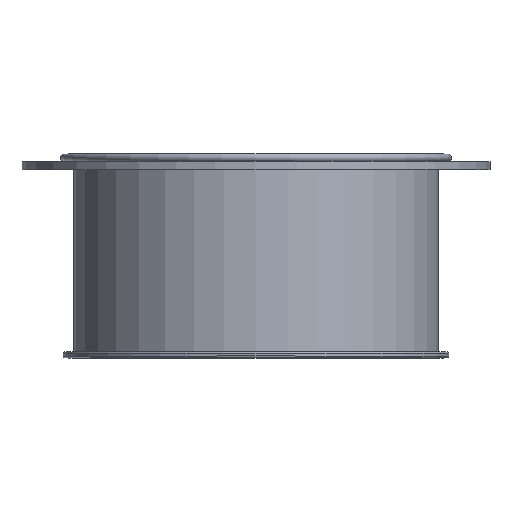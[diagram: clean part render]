
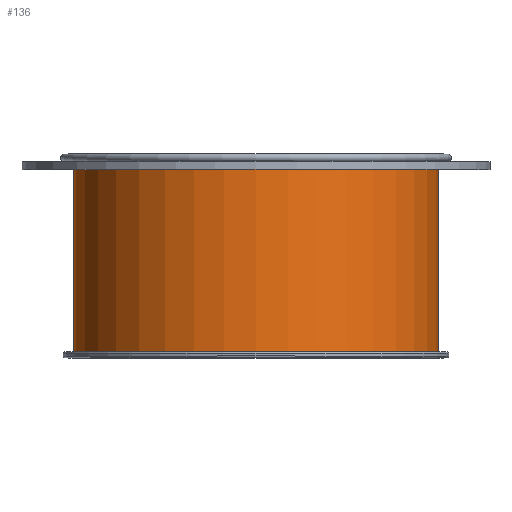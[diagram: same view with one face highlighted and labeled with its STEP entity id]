
A CAD part, top view. The second image highlights one B-rep face of the part: STEP entity #136.
In plain terms, the highlighted cylindrical face has radius 90.8 mm (diameter 181.6 mm), a full revolution.
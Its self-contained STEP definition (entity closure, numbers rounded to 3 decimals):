
#116=CYLINDRICAL_SURFACE('',#526,90.8);
#136=ADVANCED_FACE('',(#203,#204),#116,.T.);
#203=FACE_BOUND('',#275,.T.);
#204=FACE_BOUND('',#276,.T.);
#275=EDGE_LOOP('',(#347));
#276=EDGE_LOOP('',(#348));
#347=ORIENTED_EDGE('',*,*,#437,.T.);
#348=ORIENTED_EDGE('',*,*,#436,.F.);
#400=VERTEX_POINT('',#748);
#401=VERTEX_POINT('',#751);
#436=EDGE_CURVE('',#400,#400,#472,.T.);
#437=EDGE_CURVE('',#401,#401,#473,.T.);
#472=CIRCLE('',#523,90.8);
#473=CIRCLE('',#525,90.8);
#523=AXIS2_PLACEMENT_3D('',#747,#628,#629);
#525=AXIS2_PLACEMENT_3D('',#750,#632,#633);
#526=AXIS2_PLACEMENT_3D('',#752,#634,#635);
#628=DIRECTION('',(0.,1.,0.));
#629=DIRECTION('',(1.,0.,0.));
#632=DIRECTION('',(0.,1.,0.));
#633=DIRECTION('',(1.,0.,0.));
#634=DIRECTION('',(0.,1.,0.));
#635=DIRECTION('',(1.,0.,0.));
#747=CARTESIAN_POINT('',(0.,99.2,0.));
#748=CARTESIAN_POINT('',(90.8,99.2,0.));
#750=CARTESIAN_POINT('',(0.,3.,0.));
#751=CARTESIAN_POINT('',(90.8,3.,0.));
#752=CARTESIAN_POINT('',(0.,-192.076,0.));
